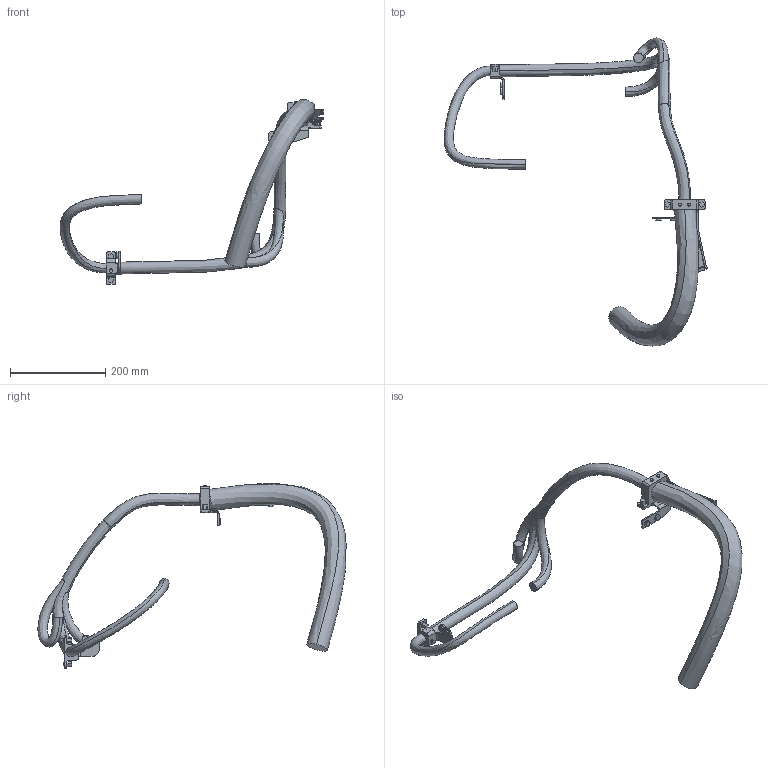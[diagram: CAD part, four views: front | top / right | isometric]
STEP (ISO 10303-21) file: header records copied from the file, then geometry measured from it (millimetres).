
FILE_DESCRIPTION (( 'STEP AP214' ), '1' );
FILE_NAME ('IRB5710-LID_90kg-230_OmniCore_rev00_LINK03m_CABLE.step', '2025-07-07T14:14:57', ( '' ), ( '' ), 'SwSTEP 2.0', 'SolidWorks 2024', '' );
FILE_SCHEMA (( 'AUTOMOTIVE_DESIGN' ));
Length unit declared in the file: millimetre
Products named in the file (1): IRB5710-LID_90kg-230_OmniCore_rev00_LINK03m_CABLE
Bounding box: 553.82 x 647.02 x 387.79 mm (x, y, z)
Volume: 1661853.4 mm3; surface area: 229693.3 mm2
Topology: 1 solids, 3 shells, 250 faces, 667 edges, 435 vertices
Faces by surface type: plane 136, cylinder 93, bspline 13, cone 8
Entity records: 14569 total; most frequent: CARTESIAN_POINT 7841, ORIENTED_EDGE 1334, DIRECTION 1288, EDGE_CURVE 667, AXIS2_PLACEMENT_3D 448, VERTEX_POINT 435, LINE 392, VECTOR 392
